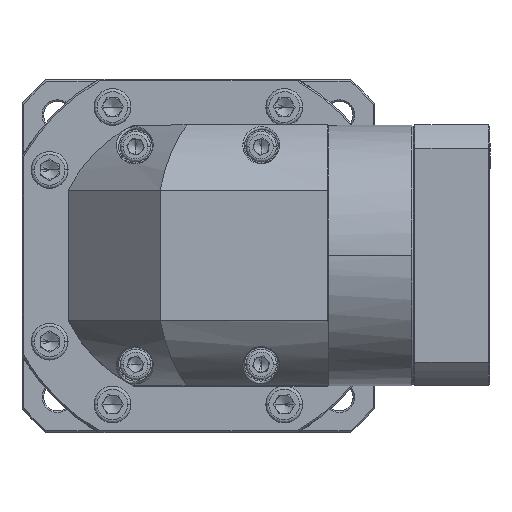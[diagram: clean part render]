
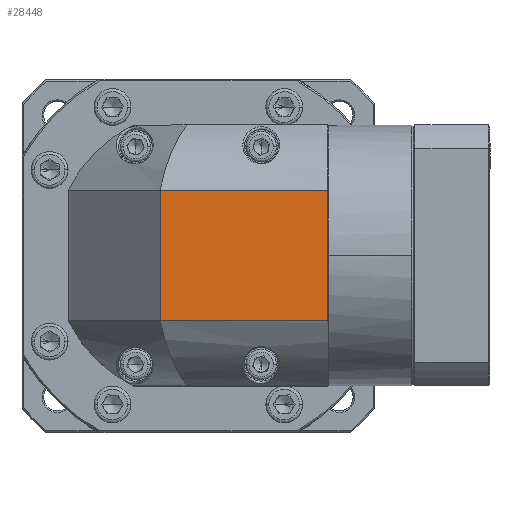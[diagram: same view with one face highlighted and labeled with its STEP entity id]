
A CAD part, top view. The second image highlights one B-rep face of the part: STEP entity #28448.
In plain terms, the highlighted planar face has unit normal (0, 0, 1).
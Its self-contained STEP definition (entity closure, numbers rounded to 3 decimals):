
#6355 = CARTESIAN_POINT ( 'NONE',  ( 32.37, 60.789, 39.432 ) ) ;
#11207 = LINE ( 'NONE', #84280, #113278 ) ;
#17225 = CARTESIAN_POINT ( 'NONE',  ( 86.87, 103.216, 39.432 ) ) ;
#18934 = LINE ( 'NONE', #125896, #133547 ) ;
#20385 = ORIENTED_EDGE ( 'NONE', *, *, #32323, .F. ) ;
#24669 = CARTESIAN_POINT ( 'NONE',  ( 32.37, 103.216, 39.432 ) ) ;
#28448 = ADVANCED_FACE ( 'NONE', ( #65788 ), #104015, .T. ) ;
#32323 = EDGE_CURVE ( 'NONE', #72762, #67009, #129069, .T. ) ;
#42161 = CARTESIAN_POINT ( 'NONE',  ( -13.13, 103.216, 39.432 ) ) ;
#46793 = DIRECTION ( 'NONE',  ( -1., 0., 0. ) ) ;
#48444 = DIRECTION ( 'NONE',  ( 1., 0., 0. ) ) ;
#50409 = DIRECTION ( 'NONE',  ( 0., 0., 1. ) ) ;
#51613 = VERTEX_POINT ( 'NONE', #94857 ) ;
#53996 = DIRECTION ( 'NONE',  ( 0., 1., 0. ) ) ;
#57232 = ORIENTED_EDGE ( 'NONE', *, *, #143832, .T. ) ;
#64415 = VECTOR ( 'NONE', #110231, 1000. ) ;
#65788 = FACE_OUTER_BOUND ( 'NONE', #87259, .T. ) ;
#67009 = VERTEX_POINT ( 'NONE', #17225 ) ;
#72762 = VERTEX_POINT ( 'NONE', #24669 ) ;
#77316 = ORIENTED_EDGE ( 'NONE', *, *, #134057, .F. ) ;
#78577 = VECTOR ( 'NONE', #53996, 1000. ) ;
#84280 = CARTESIAN_POINT ( 'NONE',  ( 32.37, 82.003, 39.432 ) ) ;
#87259 = EDGE_LOOP ( 'NONE', ( #20385, #106342, #77316, #57232 ) ) ;
#89500 = CARTESIAN_POINT ( 'NONE',  ( 86.87, 82.003, 39.432 ) ) ;
#94857 = CARTESIAN_POINT ( 'NONE',  ( 86.87, 60.789, 39.432 ) ) ;
#98820 = DIRECTION ( 'NONE',  ( 0., 1., 0. ) ) ;
#104015 = PLANE ( 'NONE',  #108555 ) ;
#106342 = ORIENTED_EDGE ( 'NONE', *, *, #139714, .F. ) ;
#108555 = AXIS2_PLACEMENT_3D ( 'NONE', #140500, #50409, #48444 ) ;
#109101 = LINE ( 'NONE', #89500, #78577 ) ;
#110231 = DIRECTION ( 'NONE',  ( 1., 0., 0. ) ) ;
#113278 = VECTOR ( 'NONE', #98820, 1000. ) ;
#125896 = CARTESIAN_POINT ( 'NONE',  ( -13.13, 60.789, 39.432 ) ) ;
#129069 = LINE ( 'NONE', #42161, #64415 ) ;
#133547 = VECTOR ( 'NONE', #46793, 1000. ) ;
#134057 = EDGE_CURVE ( 'NONE', #51613, #148376, #18934, .T. ) ;
#139714 = EDGE_CURVE ( 'NONE', #148376, #72762, #11207, .T. ) ;
#140500 = CARTESIAN_POINT ( 'NONE',  ( 44.87, 82.003, 39.432 ) ) ;
#143832 = EDGE_CURVE ( 'NONE', #51613, #67009, #109101, .T. ) ;
#148376 = VERTEX_POINT ( 'NONE', #6355 ) ;
